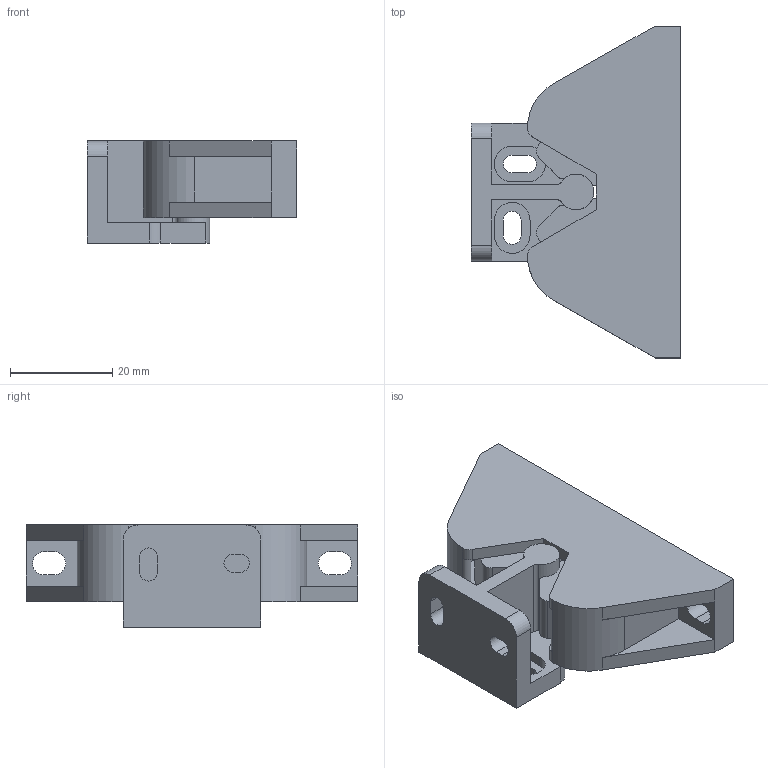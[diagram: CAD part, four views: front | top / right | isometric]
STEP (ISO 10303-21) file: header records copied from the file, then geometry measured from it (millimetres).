
FILE_DESCRIPTION (( 'STEP AP214' ), '1' );
FILE_NAME ('F30302.step', '2024-12-03T16:16:35', ( '' ), ( '' ), 'SwSTEP 2.0', 'SolidWorks 2023', '' );
FILE_SCHEMA (( 'AUTOMOTIVE_DESIGN' ));
Length unit declared in the file: millimetre
Products named in the file (1): F30302
Bounding box: 41 x 65 x 20 mm (x, y, z)
Volume: 16996.5 mm3; surface area: 13032.4 mm2
Topology: 2 solids, 2 shells, 132 faces, 361 edges, 238 vertices
Faces by surface type: plane 84, cylinder 48
Full cylindrical faces by diameter (mm): 4.5 x1
Entity records: 4238 total; most frequent: DIRECTION 732, CARTESIAN_POINT 731, ORIENTED_EDGE 720, EDGE_CURVE 360, LINE 254, VECTOR 254, AXIS2_PLACEMENT_3D 239, VERTEX_POINT 238
